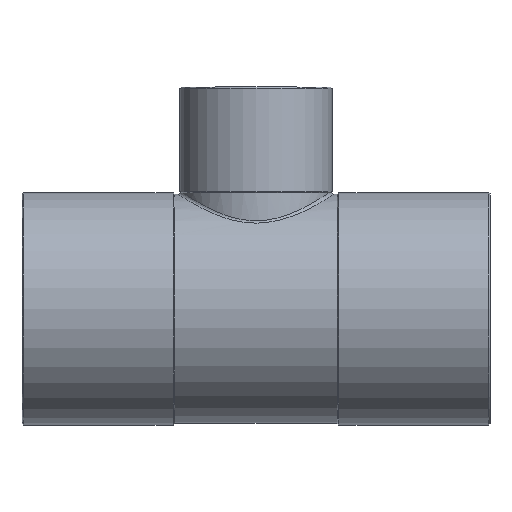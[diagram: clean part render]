
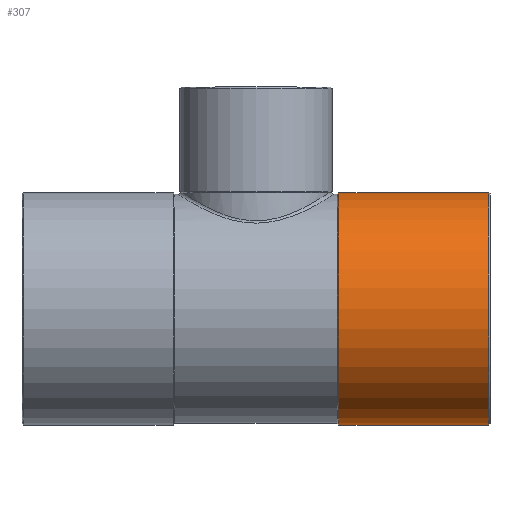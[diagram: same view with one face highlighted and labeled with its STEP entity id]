
A CAD part, top view. The second image highlights one B-rep face of the part: STEP entity #307.
In plain terms, the highlighted cylindrical face has radius 18.875 mm (diameter 37.75 mm), a partial arc.
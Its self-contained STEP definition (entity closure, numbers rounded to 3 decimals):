
#135=CARTESIAN_POINT('',(13.462,18.875,0.0));
#136=VERTEX_POINT('',#135);
#152=CARTESIAN_POINT('',(13.462,-18.875,0.));
#153=VERTEX_POINT('',#152);
#160=CARTESIAN_POINT('',(13.462,0.0,0.0));
#161=DIRECTION('',(1.0,0.0,0.0));
#162=DIRECTION('',(0.0,1.0,0.0));
#163=AXIS2_PLACEMENT_3D('',#160,#161,#162);
#164=CIRCLE('',#163,18.875);
#165=EDGE_CURVE('',#136,#153,#164,.T.);
#276=CARTESIAN_POINT('',(25.731,0.0,0.0));
#277=DIRECTION('',(1.0,0.0,0.0));
#278=DIRECTION('',(0.0,1.0,0.0));
#279=AXIS2_PLACEMENT_3D('',#276,#277,#278);
#280=CYLINDRICAL_SURFACE('',#279,18.875);
#281=CARTESIAN_POINT('',(37.8,18.875,0.));
#282=VERTEX_POINT('',#281);
#283=CARTESIAN_POINT('',(13.462,18.875,0.0));
#284=DIRECTION('',(1.0,0.0,0.0));
#285=VECTOR('',#284,24.338);
#286=LINE('',#283,#285);
#287=EDGE_CURVE('',#136,#282,#286,.T.);
#288=ORIENTED_EDGE('',*,*,#287,.F.);
#289=ORIENTED_EDGE('',*,*,#165,.T.);
#290=CARTESIAN_POINT('',(37.8,-18.875,0.));
#291=VERTEX_POINT('',#290);
#292=CARTESIAN_POINT('',(37.8,-18.875,0.));
#293=DIRECTION('',(-1.0,0.0,0.0));
#294=VECTOR('',#293,24.338);
#295=LINE('',#292,#294);
#296=EDGE_CURVE('',#291,#153,#295,.T.);
#297=ORIENTED_EDGE('',*,*,#296,.F.);
#298=CARTESIAN_POINT('',(37.8,0.0,0.0));
#299=DIRECTION('',(1.0,0.0,0.0));
#300=DIRECTION('',(0.0,-1.0,0.0));
#301=AXIS2_PLACEMENT_3D('',#298,#299,#300);
#302=CIRCLE('',#301,18.875);
#303=EDGE_CURVE('',#282,#291,#302,.T.);
#304=ORIENTED_EDGE('',*,*,#303,.F.);
#305=EDGE_LOOP('',(#288,#289,#297,#304));
#306=FACE_OUTER_BOUND('',#305,.T.);
#307=ADVANCED_FACE('',(#306),#280,.T.);
